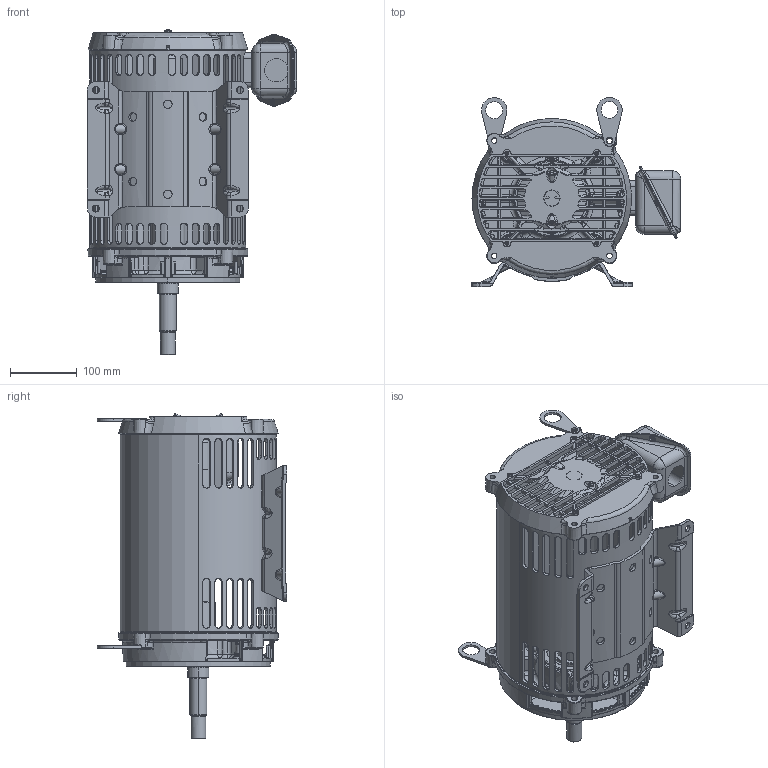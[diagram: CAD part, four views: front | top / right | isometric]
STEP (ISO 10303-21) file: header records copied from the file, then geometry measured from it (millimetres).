
FILE_DESCRIPTION((''),'2;1');
FILE_NAME('213_FULL_ASSY_ASM','2014-07-29T',('NMC779F'),('Nidec Motor Corporation'),'PRO/ENGINEER BY PARAMETRIC TECHNOLOGY CORPORATION, 2013150','PRO/ENGINEER BY PARAMETRIC TECHNOLOGY CORPORATION, 2013150','');
FILE_SCHEMA(('CONFIG_CONTROL_DESIGN'));
Length unit declared in the file: inch
Products named in the file (15): 213_FRAME; 0391764-BKT_AF1; 0298010_AF1; 0439748_ASM; 0934404-BKT_AF134; 0362224_AF2; 0449861_ASM; 0172877; 0390418; 0390408; 0390417; 0376890; 0448436; 0370460; 213_FULL_ASSY_ASM
Assembly tree (15 placements, depth 3):
  213_FULL_ASSY_ASM
    213_FRAME
    0439748_ASM
      0391764-BKT_AF1
      0298010_AF1
    0449861_ASM
      0934404-BKT_AF134
      0362224_AF2
    0172877
    0390418
    0390408
    0390417
    0376890  x2
    0448436
    0370460
Bounding box: 313.72 x 283.72 x 488 mm (x, y, z)
Volume: 2722315.5 mm3; surface area: 1075520.5 mm2
Topology: 15 solids, 15 shells, 2701 faces, 6902 edges, 4208 vertices
Faces by surface type: bspline 702, cylinder 651, plane 605, cone 414, torus 251, sphere 78
Entity records: 114420 total; most frequent: CARTESIAN_POINT 54247, ORIENTED_EDGE 13724, DIRECTION 11025, EDGE_CURVE 6862, AXIS2_PLACEMENT_3D 4390, VERTEX_POINT 4192, EDGE_LOOP 2924, FACE_OUTER_BOUND 2691
